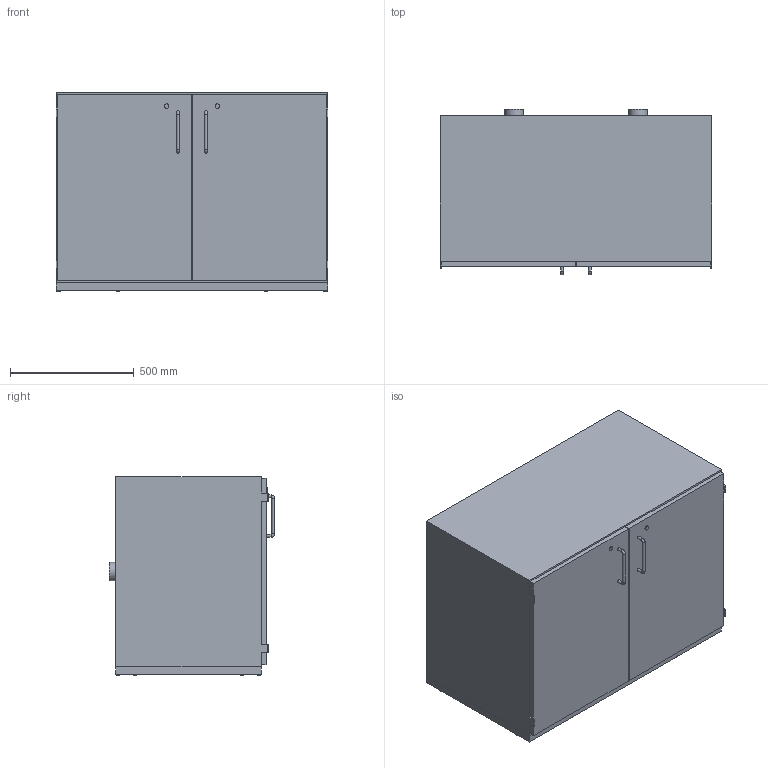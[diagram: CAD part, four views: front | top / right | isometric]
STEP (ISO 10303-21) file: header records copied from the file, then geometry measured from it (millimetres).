
FILE_DESCRIPTION(/* description */ ('Unknown'),/* implementation_level */ '2;1');
FILE_NAME(/* name */ 'ACID B pro L_D00111999',/* time_stamp */ '2021-07-27T07:44:54+02:00',/* author */ ('Unknown'),/* organization */ ('Unknown'),/* preprocessor_version */ 'ST-DEVELOPER v16.7',/* originating_system */ 'Solid Edge',/* authorisation */ 'Unknown');
FILE_SCHEMA (('AUTOMOTIVE_DESIGN {1 0 10303 214 3 1 1}'));
Length unit declared in the file: millimetre
Products named in the file (1): ACID B pro L_D00111999
Bounding box: 1100 x 670 x 805 mm (x, y, z)
Volume: 517462679 mm3; surface area: 4230000.3 mm2
Topology: 1 solids, 1 shells, 82 faces, 200 edges, 134 vertices
Faces by surface type: plane 56, cylinder 22, torus 4
Full cylindrical faces by diameter (mm): 12 x6, 13 x8, 18 x2, 75 x2
Entity records: 2810 total; most frequent: DIRECTION 378, CARTESIAN_POINT 375, ORIENTED_EDGE 336, EDGE_CURVE 168, AXIS2_PLACEMENT_3D 127, LINE 124, VECTOR 124, VERTEX_POINT 124
